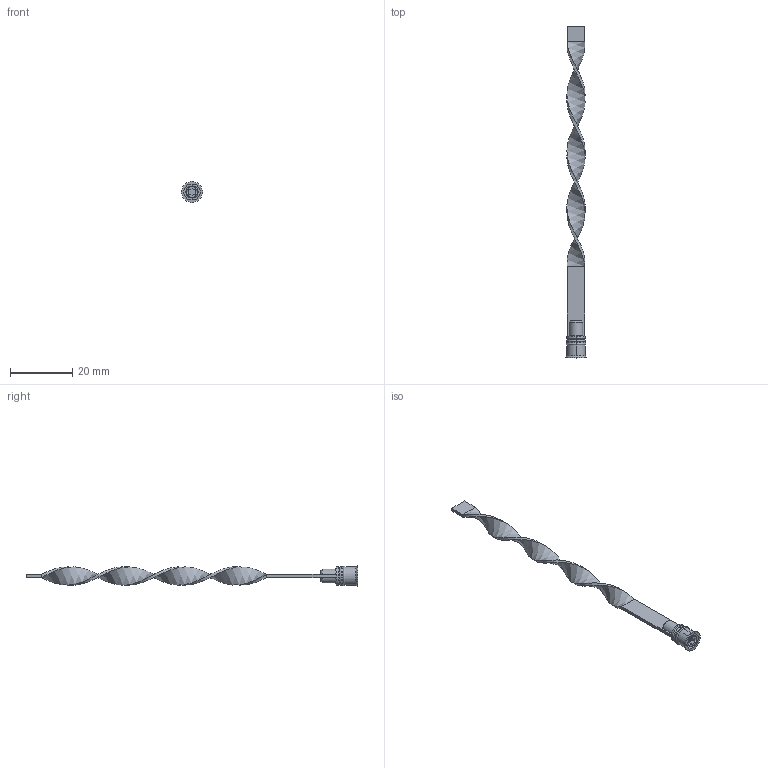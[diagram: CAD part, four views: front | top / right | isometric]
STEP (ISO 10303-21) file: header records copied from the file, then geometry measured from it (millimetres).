
FILE_DESCRIPTION (( 'STEP AP203' ), '1' );
FILE_NAME ('RLS6Fx100.STEP', '2015-12-04T14:16:33', ( 'Balzi' ), ( '' ), 'SwSTEP 2.0', 'SolidWorks 2015', '' );
FILE_SCHEMA (( 'CONFIG_CONTROL_DESIGN' ));
Length unit declared in the file: millimetre
Products named in the file (1): RLS6Fx100
Bounding box: 6.8 x 107 x 6.8 mm (x, y, z)
Volume: 781 mm3; surface area: 1765.9 mm2
Topology: 1 solids, 1 shells, 70 faces, 166 edges, 104 vertices
Faces by surface type: plane 32, cylinder 15, cone 12, torus 7, bspline 4
Entity records: 3240 total; most frequent: CARTESIAN_POINT 1567, DIRECTION 333, ORIENTED_EDGE 332, EDGE_CURVE 166, AXIS2_PLACEMENT_3D 122, VERTEX_POINT 104, VECTOR 89, LINE 89
